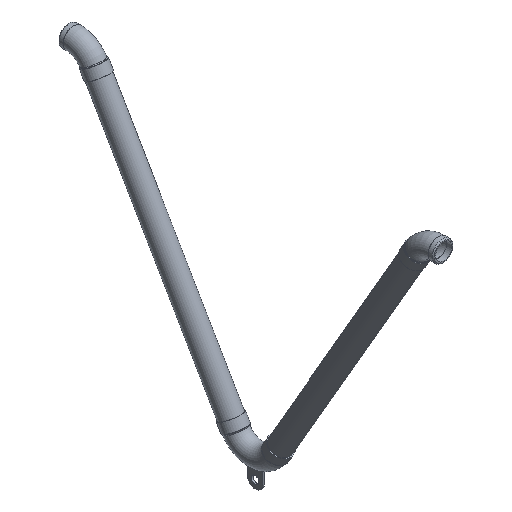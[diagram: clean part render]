
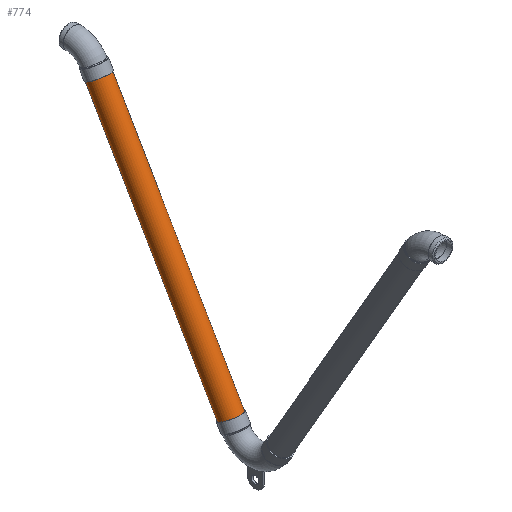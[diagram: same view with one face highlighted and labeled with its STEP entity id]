
A CAD part, isometric view. The second image highlights one B-rep face of the part: STEP entity #774.
In plain terms, the highlighted cylindrical face has radius 16.815 mm (diameter 33.63 mm), a full revolution.
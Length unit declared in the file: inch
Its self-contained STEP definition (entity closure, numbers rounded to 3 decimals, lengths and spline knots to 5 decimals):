
#66=CYLINDRICAL_SURFACE('',#879,0.662);
#133=FACE_BOUND('',#285,.T.);
#194=FACE_OUTER_BOUND('',#284,.T.);
#284=EDGE_LOOP('',(#610));
#285=EDGE_LOOP('',(#611));
#371=CIRCLE('',#880,0.662);
#372=CIRCLE('',#881,0.662);
#435=VERTEX_POINT('',#1297);
#436=VERTEX_POINT('',#1299);
#503=EDGE_CURVE('',#435,#435,#371,.T.);
#504=EDGE_CURVE('',#436,#436,#372,.T.);
#610=ORIENTED_EDGE('',*,*,#503,.T.);
#611=ORIENTED_EDGE('',*,*,#504,.F.);
#774=ADVANCED_FACE('',(#194,#133),#66,.T.);
#879=AXIS2_PLACEMENT_3D('',#1296,#1074,#1075);
#880=AXIS2_PLACEMENT_3D('',#1298,#1076,#1077);
#881=AXIS2_PLACEMENT_3D('',#1300,#1078,#1079);
#1074=DIRECTION('center_axis',(0.,0.5,0.866));
#1075=DIRECTION('ref_axis',(0.058,-0.865,0.499));
#1076=DIRECTION('center_axis',(0.,-0.5,
-0.866));
#1077=DIRECTION('ref_axis',(0.058,-0.865,0.499));
#1078=DIRECTION('center_axis',(0.,-0.5,
-0.866));
#1079=DIRECTION('ref_axis',(0.058,-0.865,0.499));
#1296=CARTESIAN_POINT('Origin',(0.,1.29904,
-16.4675));
#1297=CARTESIAN_POINT('',(-0.03858,10.94587,-1.08044));
#1298=CARTESIAN_POINT('Origin',(0.,10.37354,-0.75));
#1299=CARTESIAN_POINT('',(-0.03858,1.87137,-16.79794));
#1300=CARTESIAN_POINT('Origin',(0.,1.29904,
-16.4675));
